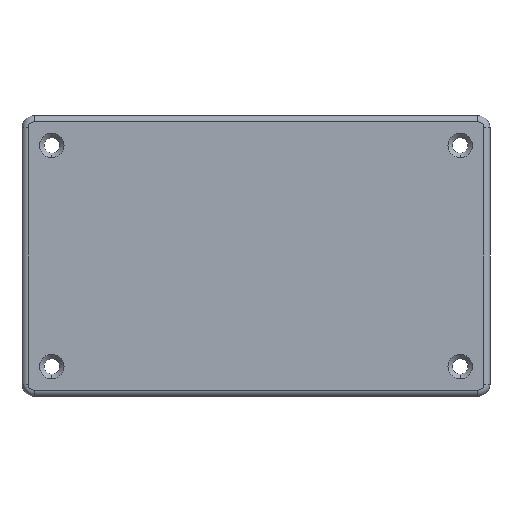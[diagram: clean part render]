
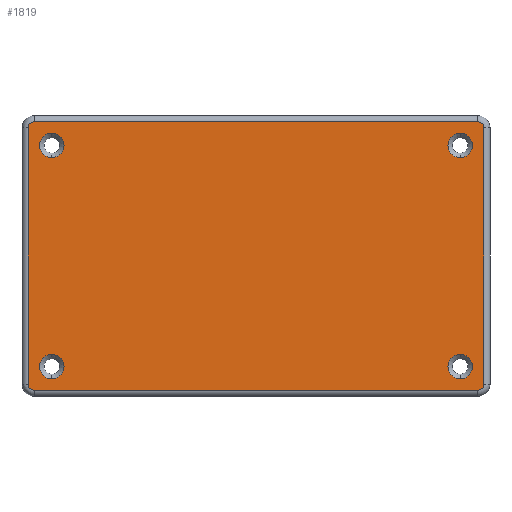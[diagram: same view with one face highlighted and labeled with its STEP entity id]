
A CAD part, front view. The second image highlights one B-rep face of the part: STEP entity #1819.
In plain terms, the highlighted planar face has unit normal (0, -1, 0).
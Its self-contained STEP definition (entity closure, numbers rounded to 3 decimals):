
#12 = CARTESIAN_POINT ( 'NONE',  ( 33.25, 0., 20. ) ) ;
#35 = DIRECTION ( 'NONE',  ( 0., 1., 0. ) ) ;
#42 = ORIENTED_EDGE ( 'NONE', *, *, #250, .T. ) ;
#109 = ORIENTED_EDGE ( 'NONE', *, *, #871, .T. ) ;
#111 = AXIS2_PLACEMENT_3D ( 'NONE', #421, #1644, #619 ) ;
#126 = AXIS2_PLACEMENT_3D ( 'NONE', #1817, #782, #2002 ) ;
#150 = VECTOR ( 'NONE', #1864, 1000. ) ;
#154 = VERTEX_POINT ( 'NONE', #606 ) ;
#157 = DIRECTION ( 'NONE',  ( 0., 0., 1. ) ) ;
#159 = VERTEX_POINT ( 'NONE', #1814 ) ;
#161 = AXIS2_PLACEMENT_3D ( 'NONE', #951, #2157, #1116 ) ;
#164 = AXIS2_PLACEMENT_3D ( 'NONE', #1130, #35, #1299 ) ;
#179 = VERTEX_POINT ( 'NONE', #418 ) ;
#180 = CARTESIAN_POINT ( 'NONE',  ( -36.1, 0., -21.85 ) ) ;
#187 = FACE_BOUND ( 'NONE', #1081, .T. ) ;
#191 = EDGE_CURVE ( 'NONE', #1073, #154, #1686, .T. ) ;
#193 = EDGE_CURVE ( 'NONE', #154, #1058, #279, .T. ) ;
#199 = DIRECTION ( 'NONE',  ( 0., 0., 1. ) ) ;
#201 = AXIS2_PLACEMENT_3D ( 'NONE', #1530, #962, #199 ) ;
#204 = EDGE_CURVE ( 'NONE', #1058, #1515, #713, .T. ) ;
#210 = EDGE_CURVE ( 'NONE', #1515, #330, #1572, .T. ) ;
#215 = ORIENTED_EDGE ( 'NONE', *, *, #656, .T. ) ;
#217 = EDGE_CURVE ( 'NONE', #330, #2036, #1181, .T. ) ;
#220 = EDGE_CURVE ( 'NONE', #2036, #1205, #668, .T. ) ;
#221 = DIRECTION ( 'NONE',  ( 0., 0., -1. ) ) ;
#230 = EDGE_CURVE ( 'NONE', #1205, #159, #604, .T. ) ;
#235 = AXIS2_PLACEMENT_3D ( 'NONE', #1524, #475, #1684 ) ;
#236 = EDGE_CURVE ( 'NONE', #159, #1073, #1991, .T. ) ;
#240 = CARTESIAN_POINT ( 'NONE',  ( 36.1, 0., -21.85 ) ) ;
#250 = EDGE_CURVE ( 'NONE', #179, #906, #551, .T. ) ;
#265 = AXIS2_PLACEMENT_3D ( 'NONE', #828, #2047, #1003 ) ;
#266 = EDGE_CURVE ( 'NONE', #740, #2069, #1410, .T. ) ;
#270 = EDGE_CURVE ( 'NONE', #809, #696, #1028, .T. ) ;
#275 = EDGE_CURVE ( 'NONE', #864, #557, #1938, .T. ) ;
#279 = CIRCLE ( 'NONE', #336, 1. ) ;
#281 = ORIENTED_EDGE ( 'NONE', *, *, #217, .T. ) ;
#307 = ORIENTED_EDGE ( 'NONE', *, *, #193, .T. ) ;
#330 = VERTEX_POINT ( 'NONE', #773 ) ;
#336 = AXIS2_PLACEMENT_3D ( 'NONE', #645, #1853, #818 ) ;
#371 = CARTESIAN_POINT ( 'NONE',  ( 33.25, 0., -18. ) ) ;
#418 = CARTESIAN_POINT ( 'NONE',  ( -33.25, 0., -16. ) ) ;
#421 = CARTESIAN_POINT ( 'NONE',  ( 33.25, 0., 18. ) ) ;
#454 = CARTESIAN_POINT ( 'NONE',  ( 0., 0., 0. ) ) ;
#475 = DIRECTION ( 'NONE',  ( 0., -1., 0. ) ) ;
#482 = ORIENTED_EDGE ( 'NONE', *, *, #191, .T. ) ;
#551 = CIRCLE ( 'NONE', #161, 2. ) ;
#557 = VERTEX_POINT ( 'NONE', #1089 ) ;
#583 = DIRECTION ( 'NONE',  ( 0., 0., 1. ) ) ;
#593 = CIRCLE ( 'NONE', #1243, 2. ) ;
#595 = CARTESIAN_POINT ( 'NONE',  ( -37.1, 0., 20.85 ) ) ;
#604 = LINE ( 'NONE', #837, #1533 ) ;
#606 = CARTESIAN_POINT ( 'NONE',  ( -37.1, 0., -20.85 ) ) ;
#619 = DIRECTION ( 'NONE',  ( 0., 0., 1. ) ) ;
#644 = DIRECTION ( 'NONE',  ( 0., 0., 1. ) ) ;
#645 = CARTESIAN_POINT ( 'NONE',  ( -36.1, 0., -20.85 ) ) ;
#653 = CARTESIAN_POINT ( 'NONE',  ( 37.1, 0., 0. ) ) ;
#656 = EDGE_CURVE ( 'NONE', #906, #179, #593, .T. ) ;
#668 = CIRCLE ( 'NONE', #235, 1. ) ;
#696 = VERTEX_POINT ( 'NONE', #1744 ) ;
#707 = EDGE_CURVE ( 'NONE', #2069, #740, #1194, .T. ) ;
#708 = DIRECTION ( 'NONE',  ( 0., 1., 0. ) ) ;
#713 = LINE ( 'NONE', #1328, #2061 ) ;
#740 = VERTEX_POINT ( 'NONE', #1246 ) ;
#773 = CARTESIAN_POINT ( 'NONE',  ( 37.1, 0., -20.85 ) ) ;
#774 = DIRECTION ( 'NONE',  ( 0., 1., 0. ) ) ;
#775 = EDGE_CURVE ( 'NONE', #696, #809, #1488, .T. ) ;
#782 = DIRECTION ( 'NONE',  ( 0., 1., 0. ) ) ;
#809 = VERTEX_POINT ( 'NONE', #2137 ) ;
#818 = DIRECTION ( 'NONE',  ( 0., 0., 1. ) ) ;
#828 = CARTESIAN_POINT ( 'NONE',  ( 36.1, 0., -20.85 ) ) ;
#837 = CARTESIAN_POINT ( 'NONE',  ( 0., 0., 21.85 ) ) ;
#849 = ORIENTED_EDGE ( 'NONE', *, *, #204, .T. ) ;
#864 = VERTEX_POINT ( 'NONE', #12 ) ;
#871 = EDGE_CURVE ( 'NONE', #557, #864, #1772, .T. ) ;
#872 = ORIENTED_EDGE ( 'NONE', *, *, #210, .T. ) ;
#890 = ORIENTED_EDGE ( 'NONE', *, *, #775, .T. ) ;
#906 = VERTEX_POINT ( 'NONE', #1647 ) ;
#916 = ORIENTED_EDGE ( 'NONE', *, *, #270, .T. ) ;
#951 = CARTESIAN_POINT ( 'NONE',  ( -33.25, 0., -18. ) ) ;
#962 = DIRECTION ( 'NONE',  ( 0., -1., 0. ) ) ;
#991 = DIRECTION ( 'NONE',  ( 1., 0., 0. ) ) ;
#1003 = DIRECTION ( 'NONE',  ( 0., 0., 1. ) ) ;
#1017 = AXIS2_PLACEMENT_3D ( 'NONE', #454, #1665, #644 ) ;
#1028 = CIRCLE ( 'NONE', #164, 2. ) ;
#1058 = VERTEX_POINT ( 'NONE', #180 ) ;
#1060 = EDGE_LOOP ( 'NONE', ( #109, #2128 ) ) ;
#1073 = VERTEX_POINT ( 'NONE', #595 ) ;
#1081 = EDGE_LOOP ( 'NONE', ( #890, #916 ) ) ;
#1089 = CARTESIAN_POINT ( 'NONE',  ( 33.25, 0., 16. ) ) ;
#1116 = DIRECTION ( 'NONE',  ( 0., 0., 1. ) ) ;
#1130 = CARTESIAN_POINT ( 'NONE',  ( 33.25, 0., -18. ) ) ;
#1141 = CARTESIAN_POINT ( 'NONE',  ( -37.1, 0., 0. ) ) ;
#1181 = LINE ( 'NONE', #653, #150 ) ;
#1194 = CIRCLE ( 'NONE', #1710, 2. ) ;
#1205 = VERTEX_POINT ( 'NONE', #2034 ) ;
#1211 = FACE_BOUND ( 'NONE', #1348, .T. ) ;
#1238 = DIRECTION ( 'NONE',  ( 0., 1., 0. ) ) ;
#1243 = AXIS2_PLACEMENT_3D ( 'NONE', #1735, #708, #1928 ) ;
#1246 = CARTESIAN_POINT ( 'NONE',  ( -33.25, 0., 20. ) ) ;
#1299 = DIRECTION ( 'NONE',  ( 0., 0., 1. ) ) ;
#1306 = CARTESIAN_POINT ( 'NONE',  ( 37.1, 0., 20.85 ) ) ;
#1328 = CARTESIAN_POINT ( 'NONE',  ( 0., 0., -21.85 ) ) ;
#1348 = EDGE_LOOP ( 'NONE', ( #215, #42 ) ) ;
#1387 = ORIENTED_EDGE ( 'NONE', *, *, #236, .T. ) ;
#1410 = CIRCLE ( 'NONE', #126, 2. ) ;
#1488 = CIRCLE ( 'NONE', #2168, 2. ) ;
#1490 = EDGE_LOOP ( 'NONE', ( #482, #307, #849, #872, #281, #2090, #1917, #1387 ) ) ;
#1515 = VERTEX_POINT ( 'NONE', #240 ) ;
#1516 = DIRECTION ( 'NONE',  ( -1., 0., 0. ) ) ;
#1524 = CARTESIAN_POINT ( 'NONE',  ( 36.1, 0., 20.85 ) ) ;
#1530 = CARTESIAN_POINT ( 'NONE',  ( -36.1, 0., 20.85 ) ) ;
#1533 = VECTOR ( 'NONE', #1516, 1000. ) ;
#1555 = AXIS2_PLACEMENT_3D ( 'NONE', #1813, #774, #1994 ) ;
#1562 = FACE_BOUND ( 'NONE', #1060, .T. ) ;
#1572 = CIRCLE ( 'NONE', #265, 1. ) ;
#1609 = DIRECTION ( 'NONE',  ( 0., 1., 0. ) ) ;
#1644 = DIRECTION ( 'NONE',  ( 0., 1., 0. ) ) ;
#1647 = CARTESIAN_POINT ( 'NONE',  ( -33.25, 0., -20. ) ) ;
#1665 = DIRECTION ( 'NONE',  ( 0., 1., 0. ) ) ;
#1684 = DIRECTION ( 'NONE',  ( 0., 0., 1. ) ) ;
#1686 = LINE ( 'NONE', #1141, #2100 ) ;
#1710 = AXIS2_PLACEMENT_3D ( 'NONE', #2284, #1238, #157 ) ;
#1726 = FACE_BOUND ( 'NONE', #2191, .T. ) ;
#1735 = CARTESIAN_POINT ( 'NONE',  ( -33.25, 0., -18. ) ) ;
#1744 = CARTESIAN_POINT ( 'NONE',  ( 33.25, 0., -20. ) ) ;
#1772 = CIRCLE ( 'NONE', #1555, 2. ) ;
#1813 = CARTESIAN_POINT ( 'NONE',  ( 33.25, 0., 18. ) ) ;
#1814 = CARTESIAN_POINT ( 'NONE',  ( -36.1, 0., 21.85 ) ) ;
#1817 = CARTESIAN_POINT ( 'NONE',  ( -33.25, 0., 18. ) ) ;
#1819 = ADVANCED_FACE ( 'NONE', ( #2043, #1211, #1726, #187, #1562 ), #2029, .F. ) ;
#1853 = DIRECTION ( 'NONE',  ( 0., -1., 0. ) ) ;
#1864 = DIRECTION ( 'NONE',  ( 0., 0., 1. ) ) ;
#1917 = ORIENTED_EDGE ( 'NONE', *, *, #230, .T. ) ;
#1928 = DIRECTION ( 'NONE',  ( 0., 0., 1. ) ) ;
#1938 = CIRCLE ( 'NONE', #111, 2. ) ;
#1991 = CIRCLE ( 'NONE', #201, 1. ) ;
#1994 = DIRECTION ( 'NONE',  ( 0., 0., 1. ) ) ;
#2002 = DIRECTION ( 'NONE',  ( 0., 0., 1. ) ) ;
#2029 = PLANE ( 'NONE',  #1017 ) ;
#2034 = CARTESIAN_POINT ( 'NONE',  ( 36.1, 0., 21.85 ) ) ;
#2036 = VERTEX_POINT ( 'NONE', #1306 ) ;
#2043 = FACE_OUTER_BOUND ( 'NONE', #1490, .T. ) ;
#2047 = DIRECTION ( 'NONE',  ( 0., -1., 0. ) ) ;
#2061 = VECTOR ( 'NONE', #991, 1000. ) ;
#2069 = VERTEX_POINT ( 'NONE', #2188 ) ;
#2090 = ORIENTED_EDGE ( 'NONE', *, *, #220, .T. ) ;
#2100 = VECTOR ( 'NONE', #221, 1000. ) ;
#2128 = ORIENTED_EDGE ( 'NONE', *, *, #275, .T. ) ;
#2137 = CARTESIAN_POINT ( 'NONE',  ( 33.25, 0., -16. ) ) ;
#2157 = DIRECTION ( 'NONE',  ( 0., 1., 0. ) ) ;
#2168 = AXIS2_PLACEMENT_3D ( 'NONE', #371, #1609, #583 ) ;
#2185 = ORIENTED_EDGE ( 'NONE', *, *, #266, .T. ) ;
#2188 = CARTESIAN_POINT ( 'NONE',  ( -33.25, 0., 16. ) ) ;
#2191 = EDGE_LOOP ( 'NONE', ( #2277, #2185 ) ) ;
#2277 = ORIENTED_EDGE ( 'NONE', *, *, #707, .T. ) ;
#2284 = CARTESIAN_POINT ( 'NONE',  ( -33.25, 0., 18. ) ) ;
